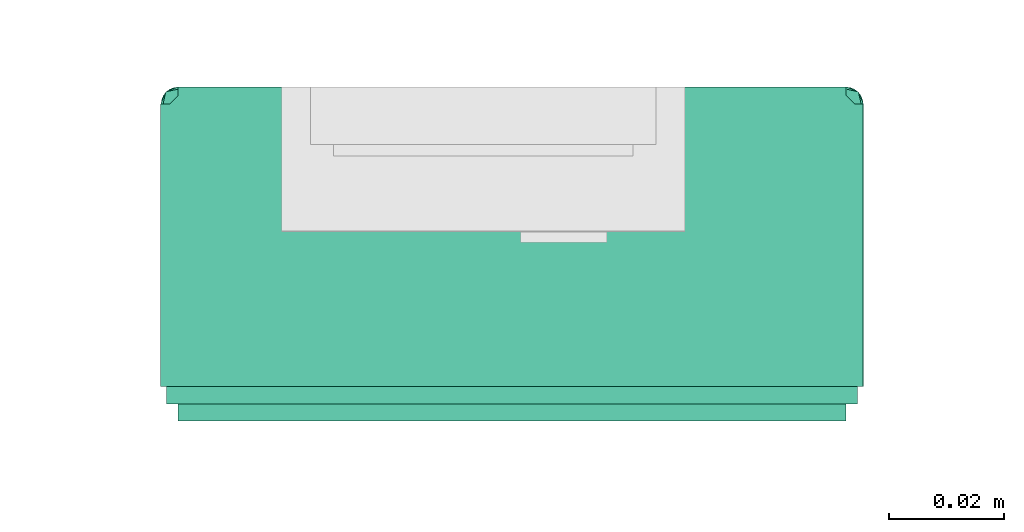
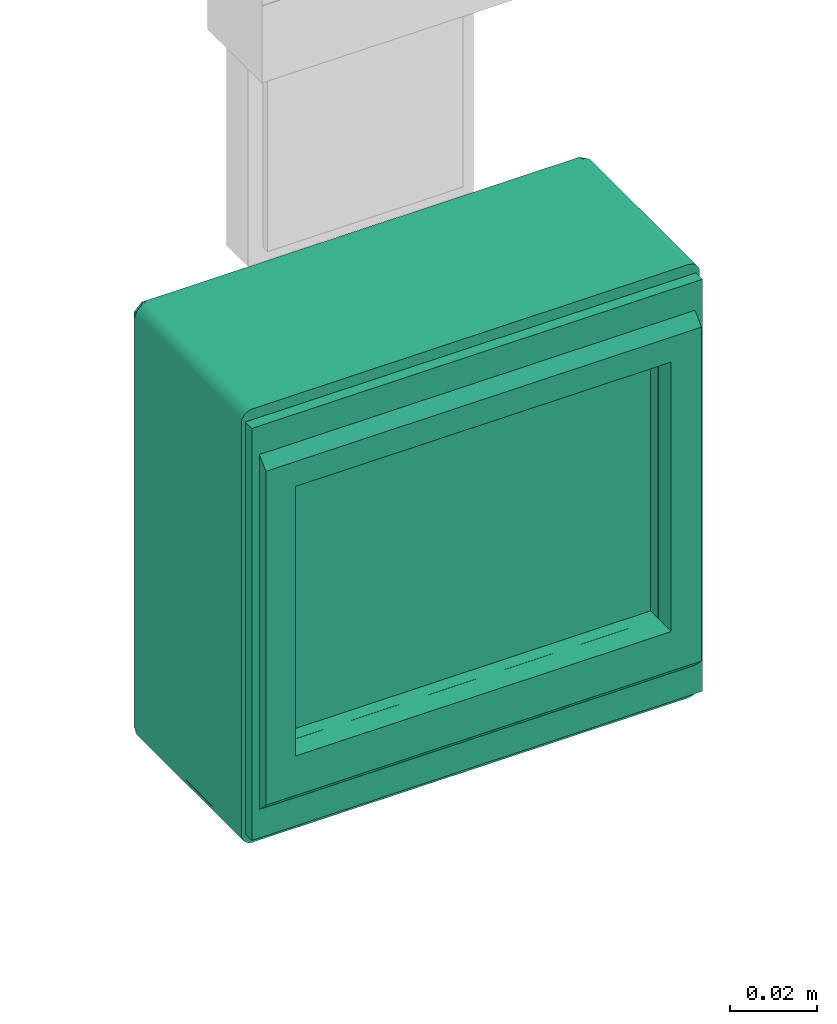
# One storey, part 3 of 3: 1 distribution control element.
"""IFC2X3 building model written with IfcOpenShell, lengths in millimetres."""

from ifc_helpers import new_model, entity, si_unit, converted_unit, derived_unit, direction, frame, origin_with_axes, place, context, subcontext, project, spatial, open_shell, surface_model, source, transform, mapped, type_object, element, save


model = new_model("IFC2X3")

# Units and contexts
model_context = context("Model", 3, precision=0.01, world=frame((0.0, 4.29681676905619e-09, 0.0)), true_north=direction((4.01073788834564e-13, 1.0)))
plan_context = context("Plan", 3, precision=0.01, world=frame((0.0, 4.29681676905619e-09, 0.0)), true_north=direction((4.01073788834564e-13, 1.0)))
body_context = subcontext(model_context, "Body", "Model", "MODEL_VIEW")
ifc_project = project(units=[converted_unit("PLANEANGLEUNIT", "DEGREE", entity("IfcPositiveLengthMeasure", 0.0174532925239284), si_unit("PLANEANGLEUNIT", "RADIAN"), dimensions=[0, 0, 0, 0, 0, 0, 0]), si_unit("AREAUNIT", "SQUARE_METRE"), si_unit("LENGTHUNIT", "METRE", prefix="MILLI"), si_unit("MASSUNIT", "GRAM", prefix="KILO"), si_unit("POWERUNIT", "WATT"), si_unit("PRESSUREUNIT", "PASCAL"), si_unit("FORCEUNIT", "NEWTON", prefix="KILO"), si_unit("ELECTRICVOLTAGEUNIT", "VOLT"), si_unit("ELECTRICCURRENTUNIT", "AMPERE"), si_unit("THERMODYNAMICTEMPERATUREUNIT", "DEGREE_CELSIUS"), si_unit("TIMEUNIT", "SECOND"), si_unit("VOLUMEUNIT", "CUBIC_METRE"), derived_unit("LINEARVELOCITYUNIT", [(si_unit("LENGTHUNIT", "METRE"), 1), (si_unit("TIMEUNIT", "SECOND"), -1)]), derived_unit("VOLUMETRICFLOWRATEUNIT", [(si_unit("VOLUMEUNIT", "CUBIC_METRE"), 1), (si_unit("TIMEUNIT", "SECOND"), -1)]), derived_unit("THERMALTRANSMITTANCEUNIT", [(si_unit("POWERUNIT", "WATT"), 1), (si_unit("THERMODYNAMICTEMPERATUREUNIT", "KELVIN"), -1), (si_unit("AREAUNIT", "SQUARE_METRE"), -1)]), derived_unit("SOUNDPRESSUREUNIT", [(si_unit("PRESSUREUNIT", "PASCAL"), 1)])], contexts=[model_context, plan_context])

# Site, building, storey
site_placement = place(None, frame((0.0, -4.29681676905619e-09, 0.0), z_axis=(0.0, 0.0, 1.0), x_axis=(1.0, 0.0, 0.0)))
site = spatial("IfcSite", under=ifc_project, at=site_placement, Name="ENGM", CompositionType="ELEMENT")
building_placement = place(site_placement, frame((0.0, 4.29681676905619e-09, 0.0), z_axis=(0.0, 0.0, 1.0), x_axis=(1.0, 0.0, 0.0)))
building = spatial("IfcBuilding", under=site, at=building_placement, Name="TI", CompositionType="ELEMENT")
storey_placement = place(building_placement, frame((0.0, 0.0, 210900.0), z_axis=(0.0, 0.0, 1.0), x_axis=(1.0, 0.0, 0.0)))
storey = spatial("IfcBuildingStorey", under=building, at=storey_placement, Name="Nivå F", CompositionType="ELEMENT", Elevation=210900.0)

# Distribution control element
alarm_type = type_object("IfcAlarmType", Name="CONTROL UNIT", PredefinedType="NOTDEFINED")
shared_shape = source(origin_with_axes(), body_context, "Body", "SurfaceModel", [
    surface_model("IfcShellBasedSurfaceModel", [(58.0, 55.0, -50.0), (50.05331, 55.0, -35.88319), (-49.94669, 55.0, -35.88319), (58.0, 55.0, 50.0), (-58.0, 55.0, -50.0), (-58.0, 55.0, 50.0), (50.05331, 55.0, 40.0), (-49.94669, 55.0, 40.0), (-58.0, 58.0, -47.0), (-49.94669, 58.0, -35.88319), (58.0, 58.0, -47.0), (-58.0, 58.0, 47.0), (50.05331, 58.0, -35.88319), (58.0, 58.0, 47.0), (-49.94669, 58.0, 40.0), (50.05331, 58.0, 40.0), (60.0, 52.03664, -58.0), (50.05331, 52.03664, -35.88319), (-49.94669, 52.03664, -35.88319), (60.0, 52.03664, 58.0), (-60.0, 52.03664, -58.0), (-60.0, 52.03664, 58.0), (50.05331, 52.03664, 40.0), (-49.94669, 52.03664, 40.0), (60.0, 55.03664, 58.0), (50.05331, 55.03664, 40.0), (-49.94669, 55.03664, 40.0), (50.05331, 55.03664, -35.88319), (-60.0, 55.03664, 58.0), (-49.94669, 55.03664, -35.88319), (60.0, 55.03664, -58.0), (-60.0, 55.03664, -58.0), (61.0, 52.0, -58.0), (50.05331, 52.0, -35.88319), (61.0, 52.0, 58.0), (-49.94669, 52.0, -35.88319), (50.05331, 52.0, 40.0), (-49.94669, 52.0, 40.0), (-61.0, 52.0, -58.0), (-61.0, 52.0, 58.0), (-61.0, 3.0, 58.0), (-61.0, 3.0, -58.0), (61.0, 3.0, 58.0), (61.0, 3.0, -58.0), (50.05331, 48.40679, 40.0), (-49.94669, 48.40679, 40.0), (-49.94669, 48.40679, -35.88319), (50.05331, 48.40679, -35.88319), (-58.0, 3.0, -58.0), (-58.0, 1.5, -60.59808), (-58.0, 2.22354, -60.89778), (-58.0, 0.87868, -60.12132), (-58.0, 3.0, -61.0), (-58.0, 0.40192, -59.5), (-58.0, 0.10222, -58.77646), (-58.0, 0.0, -58.0), (-58.77646, 3.0, -60.89778), (-59.5, 3.0, -60.59808), (-60.12132, 3.0, -60.12132), (-60.89778, 3.0, -58.77646), (-60.59808, 3.0, -59.5), (-60.12132, 0.87868, -58.0), (58.0, 3.0, -58.0), (-58.0, 52.0, -58.0), (58.0, 52.0, -58.0), (-58.0, 52.0, -61.0), (58.0, 52.0, -61.0), (58.0, 3.0, -61.0), (59.5, 3.0, -60.59808), (58.77646, 3.0, -60.89778), (60.12132, 3.0, -60.12132), (60.89778, 3.0, -58.77646), (60.59808, 3.0, -59.5), (58.0, 2.22354, -60.89778), (58.0, 1.5, -60.59808), (58.0, 0.87868, -60.12132), (58.0, 0.10222, -58.77646), (58.0, 0.40192, -59.5), (58.0, 0.0, -58.0), (60.12132, 0.87868, -58.0), (60.93149, 52.0, -58.78549), (60.6283, 52.0, -59.51745), (60.146, 52.0, -60.146), (61.03491, 52.0, -58.0), (59.51745, 52.0, -60.6283), (58.78549, 52.0, -60.93149), (58.0, 52.0, -61.03491), (60.6283, 3.0, -59.51745), (60.93149, 3.0, -58.78549), (60.146, 3.0, -60.146), (61.03491, 3.0, -58.0), (58.78549, 3.0, -60.93149), (59.51745, 3.0, -60.6283), (58.0, 3.0, -61.03491), (-58.0, 0.14042, -58.76622), (-58.0, 0.03955, -58.0), (-58.0, 0.90664, -60.09336), (-58.0, 0.43617, -59.48023), (-58.0, 1.51977, -60.56383), (-58.0, 2.23378, -60.85958), (-58.0, 3.0, -60.96045), (58.0, 0.03955, -58.0), (58.0, 0.14042, -58.76622), (58.0, 0.43617, -59.48023), (58.0, 0.90664, -60.09336), (58.0, 2.23378, -60.85958), (58.0, 1.51977, -60.56383), (58.0, 3.0, -60.96045), (-57.99994, 52.0, -58.00004), (-60.85952, 52.0, -58.76627), (-60.96039, 52.0, -58.00004), (-60.09329, 52.0, -60.0934), (-60.56376, 52.0, -59.48027), (-59.48016, 52.0, -60.56387), (-58.76616, 52.0, -60.85963), (-57.99994, 52.0, -60.9605), (-60.96039, 3.0, -58.00004), (-60.85952, 3.0, -58.76627), (-57.99994, 3.0, -58.00004), (-60.56376, 3.0, -59.48027), (-60.09329, 3.0, -60.0934), (-58.76616, 3.0, -60.85963), (-59.48016, 3.0, -60.56387), (-57.99994, 3.0, -60.9605), (58.0, 3.0, 61.0), (58.77646, 3.0, 60.89778), (58.0, 3.0, 58.0), (59.5, 3.0, 60.59808), (60.12132, 3.0, 60.12132), (60.89778, 3.0, 58.77646), (60.59808, 3.0, 59.5), (58.0, 2.22354, 60.89778), (58.0, 0.87868, 60.12132), (58.0, 1.5, 60.59808), (58.0, 0.40192, 59.5), (58.0, 0.10222, 58.77646), (58.0, 0.0, 58.0), (60.12132, 0.87868, 58.0), (-58.0, 3.0, 58.0), (-59.5, 3.0, 60.59808), (-58.77646, 3.0, 60.89778), (-60.12132, 3.0, 60.12132), (-58.0, 3.0, 61.0), (-60.89778, 3.0, 58.77646), (-60.59808, 3.0, 59.5), (-58.0, 2.22354, 60.89778), (-58.0, 1.5, 60.59808), (-58.0, 0.87868, 60.12132), (-58.0, 0.40192, 59.5), (-58.0, 0.10222, 58.77646), (-58.0, 0.0, 58.0), (-60.12132, 0.87868, 58.0), (58.0, 52.0, 61.0), (-58.0, 52.0, 61.0), (-58.0, 52.0, 58.0), (58.0, 52.0, 58.0), (60.93149, 3.0, 58.78549), (60.6283, 3.0, 59.51745), (60.146, 3.0, 60.146), (61.03491, 3.0, 58.0), (58.78549, 3.0, 60.93149), (59.51745, 3.0, 60.6283), (58.0, 3.0, 61.03491), (60.6283, 52.0, 59.51745), (60.93149, 52.0, 58.78549), (60.146, 52.0, 60.146), (61.03491, 52.0, 58.0), (59.51745, 52.0, 60.6283), (58.78549, 52.0, 60.93149), (58.0, 52.0, 61.03491), (57.99759, 3.00092, -58.0), (58.76381, 0.14134, -58.0), (57.99759, 0.04046, -58.0), (60.09094, 0.90756, -58.0), (59.47781, 0.43709, -58.0), (60.56141, 1.52069, -58.0), (60.85716, 2.2347, -58.0), (60.95804, 3.00092, -58.0), (57.99759, 0.04046, 58.0), (58.76381, 0.14134, 58.0), (57.99759, 3.00092, 58.0), (59.47781, 0.43709, 58.0), (60.09094, 0.90756, 58.0), (60.85716, 2.2347, 58.0), (60.56141, 1.52069, 58.0), (60.95804, 3.00092, 58.0), (58.0, 3.004, 58.0008), (58.0, 0.14442, 58.76702), (58.0, 0.04355, 58.0008), (58.0, 0.91064, 60.09415), (58.0, 0.44017, 59.48102), (58.0, 1.52377, 60.56462), (58.0, 2.23778, 60.86037), (58.0, 3.004, 60.96125), (-58.0, 0.04355, 58.0008), (-58.0, 0.14442, 58.76702), (-58.0, 3.004, 58.0008), (-58.0, 0.44017, 59.48102), (-58.0, 0.91064, 60.09415), (-58.0, 2.23778, 60.86037), (-58.0, 1.52377, 60.56462), (-58.0, 3.004, 60.96125), (-58.76623, 0.14041, 58.0), (-58.0, 0.03954, 58.0), (-60.09336, 0.90664, 58.0), (-59.48023, 0.43616, 58.0), (-60.56383, 1.51977, 58.0), (-60.85958, 2.23377, 58.0), (-60.96046, 2.99999, 58.0), (-58.76623, 0.14041, -58.0), (-59.48023, 0.43616, -58.0), (-60.09336, 0.90664, -58.0), (-60.85958, 2.23377, -58.0), (-60.56383, 1.51977, -58.0), (-60.96046, 2.99999, -58.0), (-60.85958, 3.0, 58.76622), (-60.09336, 3.0, 60.09336), (-60.56383, 3.0, 59.48023), (-59.48023, 3.0, 60.56383), (-58.76622, 3.0, 60.85958), (-58.0, 3.0, 60.96045), (-60.96045, 52.0, 58.0), (-60.85958, 52.0, 58.76622), (-60.56383, 52.0, 59.48023), (-60.09336, 52.0, 60.09336), (-58.76622, 52.0, 60.85958), (-59.48023, 52.0, 60.56383), (-58.0, 52.0, 60.96045)], [open_shell([[[0, 1, 2]], [[1, 0, 3]], [[4, 2, 5]], [[2, 4, 0]], [[6, 3, 7]], [[3, 6, 1]], [[7, 5, 2]], [[5, 7, 3]], [[8, 9, 10]], [[9, 8, 11]], [[10, 12, 13]], [[12, 10, 9]], [[14, 11, 13]], [[11, 14, 9]], [[15, 13, 12]], [[13, 15, 14]], [[0, 10, 13]], [[13, 3, 0]], [[3, 13, 11]], [[11, 5, 3]], [[5, 11, 4]], [[8, 4, 11]], [[4, 8, 10]], [[10, 0, 4]], [[14, 15, 6]], [[6, 7, 14]], [[12, 9, 2]], [[2, 1, 12]], [[2, 14, 7]], [[14, 2, 9]], [[1, 6, 15]], [[15, 12, 1]], [[16, 17, 18]], [[17, 16, 19]], [[20, 18, 21]], [[18, 20, 16]], [[22, 19, 23]], [[19, 22, 17]], [[23, 21, 18]], [[21, 23, 19]], [[24, 25, 26]], [[25, 24, 27]], [[28, 26, 29]], [[26, 28, 24]], [[27, 30, 29]], [[30, 27, 24]], [[29, 31, 28]], [[31, 29, 30]], [[19, 16, 30]], [[30, 24, 19]], [[21, 19, 24]], [[24, 28, 21]], [[20, 21, 28]], [[28, 31, 20]], [[16, 20, 31]], [[31, 30, 16]], [[26, 25, 22]], [[22, 23, 26]], [[27, 29, 18]], [[18, 17, 27]], [[29, 26, 23]], [[23, 18, 29]], [[17, 22, 25]], [[25, 27, 17]], [[32, 33, 34]], [[33, 32, 35]], [[34, 36, 37]], [[36, 34, 33]], [[35, 38, 39]], [[38, 35, 32]], [[37, 39, 34]], [[39, 37, 35]], [[40, 41, 42]], [[43, 42, 41]], [[38, 32, 43]], [[43, 41, 38]], [[39, 38, 41]], [[41, 40, 39]], [[34, 39, 40]], [[40, 42, 34]], [[32, 34, 42]], [[42, 43, 32]], [[37, 36, 44]], [[44, 45, 37]], [[33, 35, 46]], [[46, 47, 33]], [[46, 37, 45]], [[37, 46, 35]], [[46, 45, 44]], [[44, 47, 46]], [[47, 44, 36]], [[36, 33, 47]], [[48, 49, 50]], [[49, 48, 51]], [[50, 52, 48]], [[53, 48, 54]], [[51, 48, 53]], [[54, 48, 55]], [[56, 57, 48]], [[58, 48, 57]], [[48, 52, 56]], [[59, 48, 60]], [[60, 48, 58]], [[41, 48, 59]], [[61, 48, 41]], [[48, 61, 55]], [[51, 53, 58]], [[49, 51, 57]], [[54, 61, 53]], [[50, 49, 52]], [[54, 55, 61]], [[61, 41, 59]], [[61, 59, 60]], [[57, 51, 58]], [[53, 60, 58]], [[49, 57, 52]], [[52, 57, 56]], [[53, 61, 60]], [[48, 62, 63]], [[64, 63, 62]], [[65, 66, 52]], [[67, 52, 66]], [[64, 62, 67]], [[67, 66, 64]], [[63, 64, 66]], [[66, 65, 63]], [[48, 63, 65]], [[65, 52, 48]], [[62, 48, 52]], [[52, 67, 62]], [[62, 68, 69]], [[68, 62, 70]], [[69, 67, 62]], [[71, 72, 62]], [[70, 62, 72]], [[62, 43, 71]], [[73, 74, 62]], [[75, 62, 74]], [[62, 67, 73]], [[76, 62, 77]], [[77, 62, 75]], [[78, 62, 76]], [[79, 62, 78]], [[62, 79, 43]], [[72, 75, 70]], [[74, 68, 70]], [[79, 72, 71]], [[69, 68, 67]], [[71, 43, 79]], [[79, 78, 76]], [[79, 76, 77]], [[74, 70, 75]], [[72, 77, 75]], [[68, 74, 67]], [[67, 74, 73]], [[72, 79, 77]], [[80, 81, 64]], [[82, 64, 81]], [[64, 83, 80]], [[64, 84, 85]], [[84, 64, 82]], [[85, 86, 64]], [[62, 87, 88]], [[87, 62, 89]], [[88, 90, 62]], [[91, 92, 62]], [[89, 62, 92]], [[62, 93, 91]], [[64, 86, 62]], [[93, 62, 86]], [[83, 64, 62]], [[62, 90, 83]], [[88, 87, 80]], [[90, 88, 83]], [[83, 88, 80]], [[80, 87, 81]], [[87, 82, 81]], [[87, 89, 82]], [[91, 93, 86]], [[92, 91, 85]], [[92, 82, 89]], [[92, 84, 82]], [[84, 92, 85]], [[91, 86, 85]], [[48, 94, 95]], [[96, 97, 48]], [[94, 48, 97]], [[98, 48, 99]], [[99, 48, 100]], [[96, 48, 98]], [[101, 102, 62]], [[62, 103, 104]], [[103, 62, 102]], [[105, 62, 106]], [[107, 62, 105]], [[106, 62, 104]], [[48, 95, 62]], [[101, 62, 95]], [[100, 48, 107]], [[62, 107, 48]], [[99, 107, 105]], [[98, 105, 106]], [[100, 107, 99]], [[99, 105, 98]], [[106, 96, 98]], [[106, 104, 96]], [[94, 103, 102]], [[95, 102, 101]], [[104, 97, 96]], [[104, 103, 97]], [[97, 103, 94]], [[102, 95, 94]], [[108, 109, 110]], [[111, 112, 108]], [[109, 108, 112]], [[113, 108, 114]], [[114, 108, 115]], [[111, 108, 113]], [[116, 117, 118]], [[118, 119, 120]], [[119, 118, 117]], [[121, 118, 122]], [[123, 118, 121]], [[122, 118, 120]], [[108, 110, 116]], [[116, 118, 108]], [[115, 108, 118]], [[118, 123, 115]], [[121, 122, 113]], [[123, 121, 115]], [[115, 121, 114]], [[120, 111, 113]], [[121, 113, 114]], [[113, 122, 120]], [[117, 116, 110]], [[119, 117, 109]], [[120, 112, 111]], [[120, 119, 112]], [[112, 119, 109]], [[117, 110, 109]], [[124, 125, 126]], [[126, 127, 128]], [[127, 126, 125]], [[129, 126, 130]], [[42, 126, 129]], [[130, 126, 128]], [[126, 131, 124]], [[132, 133, 126]], [[131, 126, 133]], [[134, 126, 135]], [[135, 126, 136]], [[132, 126, 134]], [[137, 129, 130]], [[134, 130, 128]], [[127, 125, 124]], [[127, 132, 128]], [[42, 129, 137]], [[127, 124, 133]], [[124, 131, 133]], [[134, 128, 132]], [[127, 133, 132]], [[130, 134, 137]], [[135, 136, 137]], [[135, 137, 134]], [[136, 126, 137]], [[42, 137, 126]], [[138, 139, 140]], [[139, 138, 141]], [[140, 142, 138]], [[143, 144, 138]], [[141, 138, 144]], [[138, 40, 143]], [[145, 146, 138]], [[147, 138, 146]], [[138, 142, 145]], [[138, 148, 149]], [[148, 138, 147]], [[149, 150, 138]], [[151, 138, 150]], [[138, 151, 40]], [[141, 144, 147]], [[139, 141, 146]], [[143, 151, 144]], [[140, 139, 142]], [[143, 40, 151]], [[151, 150, 149]], [[151, 149, 148]], [[146, 141, 147]], [[144, 148, 147]], [[139, 146, 142]], [[142, 146, 145]], [[144, 151, 148]], [[124, 152, 142]], [[153, 142, 152]], [[138, 154, 126]], [[155, 126, 154]], [[153, 152, 155]], [[155, 154, 153]], [[142, 153, 154]], [[154, 138, 142]], [[124, 142, 138]], [[138, 126, 124]], [[152, 124, 126]], [[126, 155, 152]], [[156, 157, 126]], [[158, 126, 157]], [[126, 159, 156]], [[160, 126, 161]], [[161, 126, 158]], [[162, 126, 160]], [[155, 163, 164]], [[163, 155, 165]], [[164, 166, 155]], [[167, 155, 168]], [[165, 155, 167]], [[168, 155, 169]], [[126, 162, 169]], [[169, 155, 126]], [[159, 126, 155]], [[155, 166, 159]], [[164, 163, 156]], [[166, 164, 159]], [[159, 164, 156]], [[156, 163, 157]], [[163, 158, 157]], [[163, 165, 158]], [[168, 169, 162]], [[167, 168, 160]], [[167, 158, 165]], [[167, 161, 158]], [[161, 167, 160]], [[168, 162, 160]], [[170, 171, 172]], [[173, 174, 170]], [[171, 170, 174]], [[175, 170, 176]], [[176, 170, 177]], [[173, 170, 175]], [[178, 179, 180]], [[180, 181, 182]], [[181, 180, 179]], [[183, 180, 184]], [[185, 180, 183]], [[184, 180, 182]], [[170, 172, 180]], [[178, 180, 172]], [[177, 170, 185]], [[180, 185, 170]], [[176, 185, 183]], [[175, 183, 184]], [[177, 185, 176]], [[176, 183, 175]], [[184, 173, 175]], [[184, 182, 173]], [[171, 181, 179]], [[172, 179, 178]], [[182, 174, 173]], [[182, 181, 174]], [[174, 181, 171]], [[179, 172, 171]], [[186, 187, 188]], [[189, 190, 186]], [[187, 186, 190]], [[191, 186, 192]], [[192, 186, 193]], [[189, 186, 191]], [[194, 195, 196]], [[196, 197, 198]], [[197, 196, 195]], [[199, 196, 200]], [[201, 196, 199]], [[200, 196, 198]], [[186, 188, 196]], [[194, 196, 188]], [[193, 186, 201]], [[196, 201, 186]], [[192, 201, 199]], [[191, 199, 200]], [[193, 201, 192]], [[192, 199, 191]], [[200, 189, 191]], [[200, 198, 189]], [[187, 197, 195]], [[188, 195, 194]], [[198, 190, 189]], [[198, 197, 190]], [[190, 197, 187]], [[195, 188, 187]], [[138, 202, 203]], [[204, 205, 138]], [[202, 138, 205]], [[206, 138, 207]], [[207, 138, 208]], [[204, 138, 206]], [[95, 209, 48]], [[48, 210, 211]], [[210, 48, 209]], [[212, 48, 213]], [[214, 48, 212]], [[213, 48, 211]], [[138, 203, 48]], [[95, 48, 203]], [[208, 138, 214]], [[48, 214, 138]], [[207, 214, 212]], [[206, 212, 213]], [[208, 214, 207]], [[207, 212, 206]], [[213, 204, 206]], [[213, 211, 204]], [[202, 210, 209]], [[203, 209, 95]], [[211, 205, 204]], [[211, 210, 205]], [[205, 210, 202]], [[209, 203, 202]], [[138, 215, 208]], [[216, 217, 138]], [[215, 138, 217]], [[218, 138, 219]], [[219, 138, 220]], [[216, 138, 218]], [[221, 222, 154]], [[154, 223, 224]], [[223, 154, 222]], [[225, 154, 226]], [[227, 154, 225]], [[226, 154, 224]], [[138, 208, 154]], [[221, 154, 208]], [[220, 138, 154]], [[154, 227, 220]], [[225, 226, 218]], [[227, 225, 220]], [[220, 225, 219]], [[224, 216, 218]], [[225, 218, 219]], [[218, 226, 224]], [[222, 221, 208]], [[223, 222, 215]], [[224, 217, 216]], [[224, 223, 217]], [[217, 223, 215]], [[222, 208, 215]], [[55, 78, 150]], [[136, 150, 78]], [[138, 126, 48]], [[62, 48, 126]], [[136, 78, 62]], [[62, 126, 136]], [[150, 136, 126]], [[126, 138, 150]], [[55, 150, 138]], [[138, 48, 55]], [[78, 55, 48]], [[48, 62, 78]]])]),
])
distribution_control_element_placement = place(storey_placement, frame((605579.6778, 699275.27142, 780.0), z_axis=(0.0, 0.0, 1.0), x_axis=(-1.0, 0.0, 0.0)))
element("IfcDistributionControlElement", 1, at=distribution_control_element_placement, inside=storey, type_object=alarm_type, Name="CONTROL UNIT", context=body_context, shape_type="MappedRepresentation", body=[
    mapped(shared_shape, transform((0.0, 0.0, 0.0), scale=1.0)),
])

save(model, "model.ifc")
